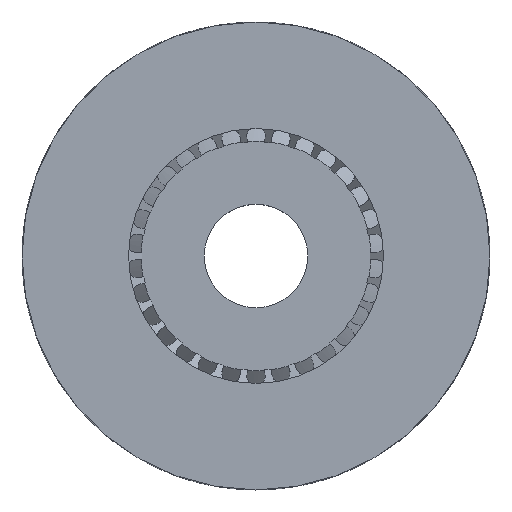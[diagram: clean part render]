
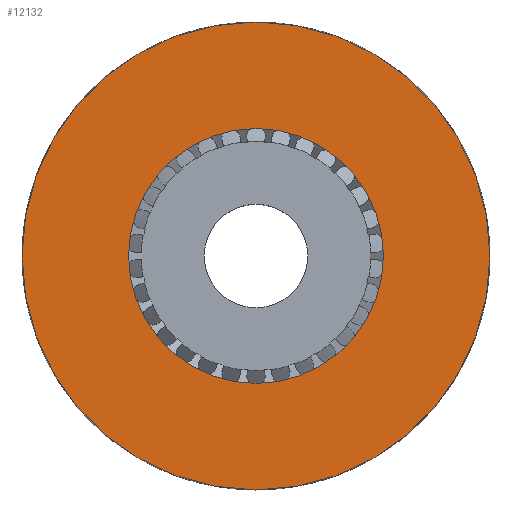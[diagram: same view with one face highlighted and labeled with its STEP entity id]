
A CAD part, top view. The second image highlights one B-rep face of the part: STEP entity #12132.
In plain terms, the highlighted planar face has unit normal (0, 0, 1).
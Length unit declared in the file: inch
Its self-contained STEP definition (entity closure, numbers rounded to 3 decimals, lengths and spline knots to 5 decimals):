
#207 = CARTESIAN_POINT ( 'NONE',  ( -2.465, 0., 0.75 ) ) ;
#292 = DIRECTION ( 'NONE',  ( -1., 0., 0. ) ) ;
#394 = DIRECTION ( 'NONE',  ( 0., 0., -1. ) ) ;
#723 = EDGE_CURVE ( 'NONE', #7582, #7013, #7258, .T. ) ;
#956 = VERTEX_POINT ( 'NONE', #4220 ) ;
#1623 = CIRCLE ( 'NONE', #9511, 2.465 ) ;
#1896 = EDGE_CURVE ( 'NONE', #956, #5489, #1623, .T. ) ;
#1982 = CARTESIAN_POINT ( 'NONE',  ( 0., 0., 0.75 ) ) ;
#2272 = CARTESIAN_POINT ( 'NONE',  ( -4.525, 0., 0.75 ) ) ;
#2778 = AXIS2_PLACEMENT_3D ( 'NONE', #5171, #12752, #6271 ) ;
#3415 = CARTESIAN_POINT ( 'NONE',  ( 4.525, 0., 0.75 ) ) ;
#3496 = AXIS2_PLACEMENT_3D ( 'NONE', #10485, #4040, #11583 ) ;
#4040 = DIRECTION ( 'NONE',  ( 0., 0., -1. ) ) ;
#4129 = ORIENTED_EDGE ( 'NONE', *, *, #9748, .F. ) ;
#4220 = CARTESIAN_POINT ( 'NONE',  ( 2.465, 0., 0.75 ) ) ;
#4784 = AXIS2_PLACEMENT_3D ( 'NONE', #1982, #394, #292 ) ;
#4828 = CARTESIAN_POINT ( 'NONE',  ( 0., 0., 0.75 ) ) ;
#4857 = ORIENTED_EDGE ( 'NONE', *, *, #723, .F. ) ;
#4932 = DIRECTION ( 'NONE',  ( 0., 0., 1. ) ) ;
#5171 = CARTESIAN_POINT ( 'NONE',  ( 0., 0., 0.75 ) ) ;
#5489 = VERTEX_POINT ( 'NONE', #207 ) ;
#6271 = DIRECTION ( 'NONE',  ( -1., 0., 0. ) ) ;
#6949 = AXIS2_PLACEMENT_3D ( 'NONE', #7063, #4932, #12504 ) ;
#7008 = DIRECTION ( 'NONE',  ( 0., 0., -1. ) ) ;
#7013 = VERTEX_POINT ( 'NONE', #2272 ) ;
#7063 = CARTESIAN_POINT ( 'NONE',  ( 0., 4.525, 0.75 ) ) ;
#7258 = CIRCLE ( 'NONE', #4784, 4.525 ) ;
#7582 = VERTEX_POINT ( 'NONE', #3415 ) ;
#7867 = CIRCLE ( 'NONE', #2778, 4.525 ) ;
#8122 = ORIENTED_EDGE ( 'NONE', *, *, #12607, .T. ) ;
#8770 = FACE_OUTER_BOUND ( 'NONE', #11229, .T. ) ;
#9176 = DIRECTION ( 'NONE',  ( -1., 0., 0. ) ) ;
#9511 = AXIS2_PLACEMENT_3D ( 'NONE', #4828, #7008, #9176 ) ;
#9748 = EDGE_CURVE ( 'NONE', #7013, #7582, #7867, .T. ) ;
#10308 = PLANE ( 'NONE',  #6949 ) ;
#10485 = CARTESIAN_POINT ( 'NONE',  ( 0., 0., 0.75 ) ) ;
#10512 = EDGE_LOOP ( 'NONE', ( #8122, #11186 ) ) ;
#11186 = ORIENTED_EDGE ( 'NONE', *, *, #1896, .T. ) ;
#11229 = EDGE_LOOP ( 'NONE', ( #4129, #4857 ) ) ;
#11583 = DIRECTION ( 'NONE',  ( -1., 0., 0. ) ) ;
#11644 = FACE_BOUND ( 'NONE', #10512, .T. ) ;
#12132 = ADVANCED_FACE ( 'NONE', ( #11644, #8770 ), #10308, .T. ) ;
#12333 = CIRCLE ( 'NONE', #3496, 2.465 ) ;
#12504 = DIRECTION ( 'NONE',  ( 1., 0., 0. ) ) ;
#12607 = EDGE_CURVE ( 'NONE', #5489, #956, #12333, .T. ) ;
#12752 = DIRECTION ( 'NONE',  ( 0., 0., -1. ) ) ;
